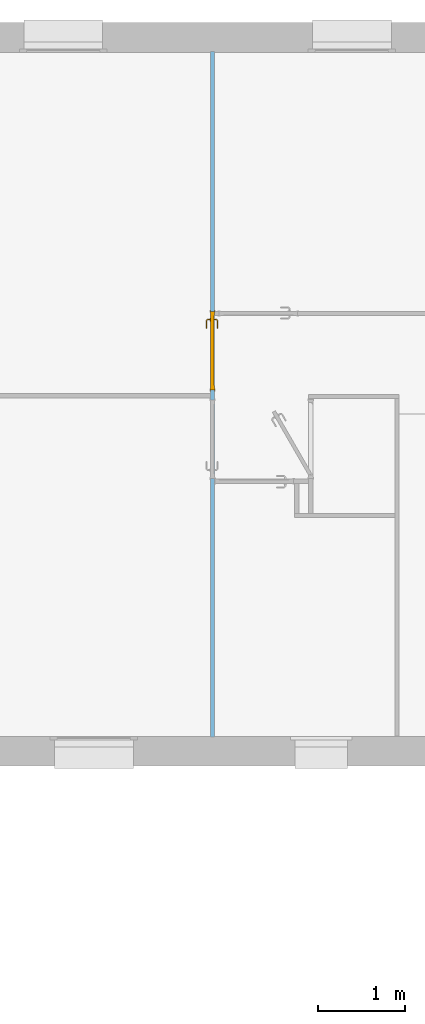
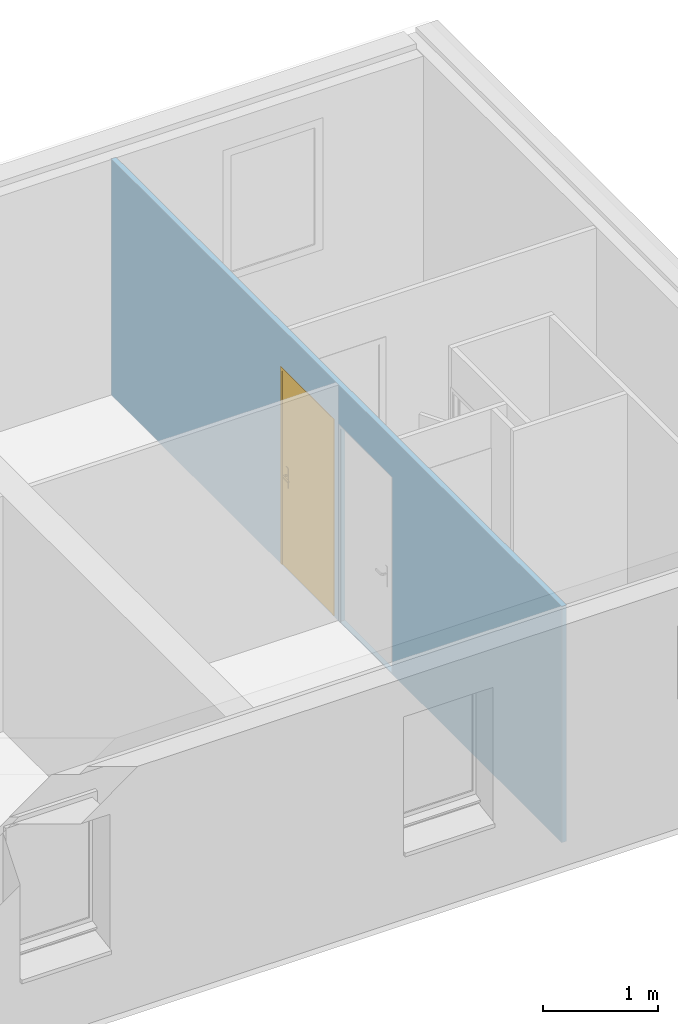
# One storey, part 9 of 13: 1 door, 3 openings, plus 1 element that does not belong to this part.
"""IFC2X3 building model written with IfcOpenShell, lengths in metres."""

from ifc_helpers import new_model, entity, si_unit, converted_unit, derived_unit, direction, frame, frame_2d, origin, place, context, subcontext, project, spatial, rectangle, extrude, faceted_brep, source, transform, mapped, material, material_list, layer, layer_set, layer_usage, type_object, type_shapes, element, fill, save


model = new_model("IFC2X3")

# Units and contexts
model_context = context("Model", 3, precision=1e-05, world=origin(), true_north=direction((6.12303176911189e-17, 1.0)))
context_of_model = context(None, 3, precision=1e-05, world=origin(), true_north=direction((6.12303176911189e-17, 1.0)))
body_context = subcontext(model_context, "Body", "Model", "MODEL_VIEW")
ifc_project = project(units=[si_unit("LENGTHUNIT", "METRE"), si_unit("AREAUNIT", "SQUARE_METRE"), si_unit("VOLUMEUNIT", "CUBIC_METRE"), converted_unit("PLANEANGLEUNIT", "DEGREE", entity("IfcRatioMeasure", 0.0174532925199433), si_unit("PLANEANGLEUNIT", "RADIAN"), dimensions=[0, 0, 0, 0, 0, 0, 0]), si_unit("MASSUNIT", "GRAM", prefix="KILO"), si_unit("TIMEUNIT", "SECOND"), si_unit("FREQUENCYUNIT", "HERTZ"), si_unit("THERMODYNAMICTEMPERATUREUNIT", "DEGREE_CELSIUS"), derived_unit("THERMALTRANSMITTANCEUNIT", [(si_unit("MASSUNIT", "GRAM", prefix="KILO"), 1), (si_unit("THERMODYNAMICTEMPERATUREUNIT", "KELVIN"), -1), (si_unit("TIMEUNIT", "SECOND"), -3)]), derived_unit("VOLUMETRICFLOWRATEUNIT", [(si_unit("LENGTHUNIT", "METRE"), 3), (si_unit("TIMEUNIT", "SECOND"), -1)]), si_unit("ELECTRICCURRENTUNIT", "AMPERE"), si_unit("ELECTRICVOLTAGEUNIT", "VOLT"), si_unit("POWERUNIT", "WATT"), si_unit("FORCEUNIT", "NEWTON", prefix="KILO"), si_unit("ILLUMINANCEUNIT", "LUX"), si_unit("LUMINOUSFLUXUNIT", "LUMEN"), si_unit("LUMINOUSINTENSITYUNIT", "CANDELA"), derived_unit("USERDEFINED", [(si_unit("MASSUNIT", "GRAM", prefix="KILO"), -1), (si_unit("LENGTHUNIT", "METRE"), -2), (si_unit("TIMEUNIT", "SECOND"), 3), (si_unit("LUMINOUSFLUXUNIT", "LUMEN"), 1)]), derived_unit("LINEARVELOCITYUNIT", [(si_unit("LENGTHUNIT", "METRE"), 1), (si_unit("TIMEUNIT", "SECOND"), -1)]), si_unit("PRESSUREUNIT", "PASCAL"), derived_unit("USERDEFINED", [(si_unit("LENGTHUNIT", "METRE"), -2), (si_unit("MASSUNIT", "GRAM", prefix="KILO"), 1), (si_unit("TIMEUNIT", "SECOND"), -2)])], contexts=[model_context, context_of_model])

# Site, building, storey
site_placement = place(None, origin())
site = spatial("IfcSite", under=ifc_project, at=site_placement, Name="Surface", CompositionType="ELEMENT")
building_placement = place(site_placement, origin())
building = spatial("IfcBuilding", under=site, at=building_placement, CompositionType="ELEMENT")
storey_placement = place(building_placement, frame((0.0, 0.0, 2.74)))
storey = spatial("IfcBuildingStorey", under=building, at=storey_placement, Name="Plan étage", CompositionType="ELEMENT", Elevation=2.74)

# Wall, openings, door
ifc_material_1 = material(Name="Maçonnerie - Isolant(1)")
ifc_layer = layer(ifc_material_1, 0.05)
ifc_layer_set = layer_set([ifc_layer], Name="Mur de base:Int. plâtre 50 mm")
ifc_layer_usage = layer_usage(ifc_layer_set, "AXIS2", "NEGATIVE", 0.025)
wall_type = type_object("IfcWallType", Name="Mur de base:Int. plâtre 50 mm", PredefinedType="STANDARD", material=ifc_layer_set)
wall_placement = place(storey_placement, frame((-1.68108881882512, 5.35425578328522, -0.00999999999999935), z_axis=(0.0, 0.0, 1.0), x_axis=(0.0, -1.0, 0.0)))
wall = element("IfcWallStandardCase", 1, at=wall_placement, inside=storey, type_object=wall_type, material=ifc_layer_usage, Name="Mur de base:Int. plâtre 50 mm", ObjectType="Mur de base:Int. plâtre 50 mm", context=body_context, shape_type="SweptSolid", body=[
    extrude(rectangle(XDim=7.84000000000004, YDim=0.05, at=frame_2d((3.92000000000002, 0.0), x_axis=(-1.0, 0.0))), origin(), (0.0, 0.0, 1.0), 2.51),
])
opening_1_placement = place(wall_placement, origin())
element("IfcOpeningElement", 2, at=opening_1_placement, cuts=wall, Name="Mur de base:Int. plâtre 50 mm", ObjectType="Opening", context=body_context, shape_type="SweptSolid", body=[
    extrude(rectangle(XDim=2.075, YDim=0.05, at=frame_2d((0.0, 3.33066907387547e-16), x_axis=(0.0, 1.0))), frame((4.915, 0.0274999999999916, 1.0475), z_axis=(0.0, 1.0, 0.0), x_axis=(1.0, 0.0, 0.0)), (0.0, 0.0, 1.0), 0.9),
])
opening_2_placement = place(wall_placement, frame((4.8825, 0.025, 0.00999999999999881)))
element("IfcOpeningElement", 3, at=opening_2_placement, cuts=wall, Name="Int. Simple:PP (0.83m x 2.04m):1", ObjectType="Opening", context=body_context, shape_type="SweptSolid", body=[
    extrude(rectangle(XDim=2.075, YDim=0.9, at=frame_2d((1.0375, 0.45), x_axis=(1.0, 0.0))), frame((0.0, 0.0, 0.0), z_axis=(0.0, -1.0, 0.0), x_axis=(0.0, 0.0, 1.0)), (0.0, 0.0, 1.0), 0.05),
])
opening_3_placement = place(wall_placement, frame((3.87, 0.025, 0.00999999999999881)))
opening_3 = element("IfcOpeningElement", 4, at=opening_3_placement, cuts=wall, Name="Int. Simple:PP (0.83m x 2.04m):1", ObjectType="Opening", context=body_context, shape_type="SweptSolid", body=[
    extrude(rectangle(XDim=2.075, YDim=0.9, at=frame_2d((1.0375, 0.45), x_axis=(1.0, 0.0))), frame((0.0, 0.0, 0.0), z_axis=(0.0, -1.0, 0.0), x_axis=(0.0, 0.0, 1.0)), (0.0, 0.0, 1.0), 0.05),
])
ifc_material_2 = material(Name="Finition Peinture - Blanc satiné")
ifc_material_3 = material(Name="Bois - Panneau de porte")
ifc_material_4 = material(Name="Bois - Cadre de porte")
ifc_material_list_1 = material_list([ifc_material_2, ifc_material_3, ifc_material_4])
ifc_material_list_2 = material_list([ifc_material_2, ifc_material_3, ifc_material_4])
door_style = type_object("IfcDoorStyle", Name="PP (0.83m x 2.04m)", ConstructionType="NOTDEFINED", OperationType="SINGLE_SWING_LEFT", ParameterTakesPrecedence=False, Sizeable=False, material=ifc_material_list_2)
shared_shape = source(origin(), body_context, "Body", "Brep", [
    faceted_brep([(0.105352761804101, -0.00500000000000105, 0.866003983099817), (0.115, -0.00500000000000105, 0.870000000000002), (0.114999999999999, -0.00500000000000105, 1.08), (0.1053527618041, -0.00500000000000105, 1.08399601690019), (0.0949999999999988, -0.00500000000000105, 1.08535898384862), (0.0846472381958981, -0.00500000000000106, 1.08399601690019), (0.0749999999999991, -0.00500000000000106, 1.08), (0.0750000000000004, -0.00500000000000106, 0.870000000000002), (0.0846472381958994, -0.00500000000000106, 0.866003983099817), (0.0950000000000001, -0.00500000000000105, 0.86464101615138), (0.1053527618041, 0.0, 1.08399601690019), (0.114999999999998, 0.0, 1.08), (0.115, 0.0, 0.870000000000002), (0.105352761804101, 0.0, 0.866003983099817), (0.0950000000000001, 0.0, 0.86464101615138), (0.0846472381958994, 0.0, 0.866003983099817), (0.0749999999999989, 0.0, 0.870000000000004), (0.0749999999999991, 0.0, 1.08), (0.0846472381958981, 0.0, 1.08399601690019), (0.0949999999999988, 0.0, 1.08535898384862)], [[[0, 1, 2, 3, 4, 5, 6, 7, 8, 9]], [[10, 11, 12, 13, 14, 15, 16, 17, 18, 19]], [[16, 15, 8, 7]], [[8, 15, 14, 9]], [[14, 13, 0, 9]], [[13, 12, 1, 0]], [[2, 1, 12, 11]], [[11, 10, 3, 2]], [[3, 10, 19, 4]], [[19, 18, 5, 4]], [[18, 17, 6, 5]], [[7, 6, 17, 16]]]),
    faceted_brep([(0.105352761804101, 0.0399999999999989, 0.866003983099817), (0.115, 0.0399999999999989, 0.870000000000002), (0.114999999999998, 0.0399999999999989, 1.08), (0.105352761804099, 0.0399999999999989, 1.08399601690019), (0.0949999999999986, 0.0399999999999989, 1.08535898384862), (0.084647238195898, 0.0399999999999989, 1.08399601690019), (0.0749999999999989, 0.0399999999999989, 1.08), (0.0750000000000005, 0.0399999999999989, 0.870000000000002), (0.0846472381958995, 0.0399999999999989, 0.866003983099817), (0.0950000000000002, 0.0399999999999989, 0.86464101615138), (0.105352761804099, 0.0449999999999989, 1.08399601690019), (0.114999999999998, 0.0449999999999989, 1.08), (0.115, 0.0449999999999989, 0.870000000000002), (0.105352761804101, 0.0449999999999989, 0.866003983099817), (0.0950000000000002, 0.0449999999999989, 0.86464101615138), (0.0846472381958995, 0.0449999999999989, 0.866003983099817), (0.0749999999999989, 0.0449999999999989, 0.870000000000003), (0.0749999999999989, 0.0449999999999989, 1.08), (0.084647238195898, 0.0449999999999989, 1.08399601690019), (0.0949999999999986, 0.0449999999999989, 1.08535898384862)], [[[0, 1, 2, 3, 4, 5, 6, 7, 8, 9]], [[10, 11, 12, 13, 14, 15, 16, 17, 18, 19]], [[11, 10, 3, 2]], [[3, 10, 19, 4]], [[19, 18, 5, 4]], [[18, 17, 6, 5]], [[7, 6, 17, 16]], [[16, 15, 8, 7]], [[8, 15, 14, 9]], [[14, 13, 0, 9]], [[13, 12, 1, 0]], [[2, 1, 12, 11]]]),
    faceted_brep([(0.0929747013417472, -0.00500000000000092, 1.00778044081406), (0.0970252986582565, -0.0050000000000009, 1.00778044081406), (0.101000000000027, -0.00500000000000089, 1.00699999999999), (0.101000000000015, -0.00500000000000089, 0.993000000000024), (0.0970252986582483, -0.0050000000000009, 0.992219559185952), (0.0929747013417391, -0.00500000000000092, 0.99221955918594), (0.0889999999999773, -0.00500000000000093, 0.992999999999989), (0.0889999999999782, -0.00500000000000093, 1.007), (0.0889999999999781, -0.0326509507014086, 1.007), (0.092974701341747, -0.0310045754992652, 1.00778044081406), (0.10902358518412, -0.0470534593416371, 1.00778044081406), (0.110701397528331, -0.0430028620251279, 1.00778044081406), (0.0970252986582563, -0.0293267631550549, 1.00778044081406), (0.101000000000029, -0.0276803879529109, 1.007), (0.101000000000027, -0.0276803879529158, 0.993000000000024), (0.0970252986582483, -0.0293267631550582, 0.992219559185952), (0.110701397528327, -0.0430028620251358, 0.992219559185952), (0.109023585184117, -0.047053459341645, 0.99221955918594), (0.0929747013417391, -0.0310045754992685, 0.99221955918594), (0.0889999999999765, -0.0326509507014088, 0.992999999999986), (0.107377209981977, -0.0510281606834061, 1.007), (0.112347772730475, -0.0390281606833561, 1.007), (0.112347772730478, -0.0390281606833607, 0.993000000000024), (0.107377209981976, -0.0510281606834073, 0.992999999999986), (0.195018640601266, -0.0510281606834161, 0.992999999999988), (0.195018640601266, -0.0470534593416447, 0.99221955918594), (0.195018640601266, -0.0430028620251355, 0.992219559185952), (0.195018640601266, -0.039028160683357, 0.993000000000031), (0.195018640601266, -0.0390281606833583, 1.007), (0.195018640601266, -0.0430028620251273, 1.00778044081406), (0.195018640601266, -0.0470534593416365, 1.00778044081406), (0.195018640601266, -0.0510281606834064, 1.00699999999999), (0.147307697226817, -0.0510281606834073, 1.007), (0.152860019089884, -0.045028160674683, 1.0078786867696), (0.15368320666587, -0.039028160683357, 1.007), (0.153683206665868, -0.0390281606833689, 0.993000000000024), (0.152860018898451, -0.0450281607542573, 0.992121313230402), (0.147307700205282, -0.0510281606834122, 0.992999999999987)], [[[0, 1, 2, 3, 4, 5, 6, 7]], [[8, 9, 0, 7]], [[9, 10, 11, 12, 1, 0]], [[12, 13, 2, 1]], [[3, 2, 13, 14]], [[14, 15, 4, 3]], [[15, 16, 17, 18, 5, 4]], [[18, 19, 6, 5]], [[7, 6, 19, 8]], [[20, 10, 9, 8]], [[11, 21, 13, 12]], [[14, 13, 21, 22]], [[22, 16, 15, 14]], [[17, 23, 19, 18]], [[8, 19, 23, 20]], [[24, 25, 26, 27, 28, 29, 30, 31]], [[32, 30, 33]], [[31, 30, 32]], [[10, 20, 32]], [[33, 34, 11]], [[21, 11, 34]], [[34, 29, 28]], [[30, 29, 33]], [[29, 34, 33]], [[10, 32, 33]], [[10, 33, 11]], [[22, 21, 34, 28, 27, 35]], [[35, 26, 36]], [[37, 36, 25]], [[22, 35, 16]], [[35, 27, 26]], [[24, 37, 25]], [[23, 17, 37]], [[37, 17, 36]], [[17, 16, 36]], [[16, 35, 36]], [[25, 36, 26]], [[20, 23, 37, 24, 31, 32]]]),
    faceted_brep([(0.0929747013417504, 0.0449999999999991, 1.00778044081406), (0.0889999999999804, 0.044999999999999, 1.007), (0.0889999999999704, 0.044999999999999, 0.992999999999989), (0.0929747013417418, 0.0449999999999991, 0.99221955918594), (0.0970252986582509, 0.0449999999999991, 0.992219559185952), (0.10100000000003, 0.0449999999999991, 0.993000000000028), (0.101000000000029, 0.0449999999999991, 1.007), (0.0970252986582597, 0.0449999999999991, 1.00778044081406), (0.10100000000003, 0.067485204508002, 0.993000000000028), (0.10100000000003, 0.0674852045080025, 1.007), (0.0970252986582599, 0.0691315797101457, 1.00778044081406), (0.110838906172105, 0.0829451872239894, 1.00778044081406), (0.109161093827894, 0.0869957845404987, 1.00778044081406), (0.0929747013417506, 0.070809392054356, 1.00778044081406), (0.0889999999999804, 0.0724557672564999, 1.007), (0.0889999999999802, 0.072455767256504, 0.992999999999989), (0.0929747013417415, 0.0708093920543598, 0.99221955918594), (0.109161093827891, 0.0869957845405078, 0.99221955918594), (0.110838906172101, 0.0829451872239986, 0.992219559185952), (0.0970252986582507, 0.0691315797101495, 0.992219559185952), (0.112485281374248, 0.0789704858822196, 0.993000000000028), (0.112485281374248, 0.0789704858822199, 1.007), (0.107514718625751, 0.0909704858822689, 1.007), (0.107514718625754, 0.090970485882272, 0.992999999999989), (0.195045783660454, 0.0789704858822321, 0.993000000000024), (0.195045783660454, 0.0829451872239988, 0.992219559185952), (0.195045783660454, 0.086995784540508, 0.99221955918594), (0.195045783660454, 0.0909704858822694, 0.992999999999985), (0.195045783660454, 0.0909704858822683, 1.007), (0.195045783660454, 0.0869957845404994, 1.00778044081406), (0.195045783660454, 0.0829451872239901, 1.00778044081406), (0.195045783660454, 0.0789704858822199, 1.007), (0.153765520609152, 0.0789704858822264, 0.993000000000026), (0.153765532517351, 0.0789704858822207, 1.007), (0.152942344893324, 0.0849704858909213, 1.0078786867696), (0.147445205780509, 0.0909704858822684, 1.007), (0.147445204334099, 0.0909704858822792, 0.992999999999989), (0.152942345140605, 0.0849704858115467, 0.992121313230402)], [[[0, 1, 2, 3, 4, 5, 6, 7]], [[6, 5, 8, 9]], [[9, 10, 7, 6]], [[10, 11, 12, 13, 0, 7]], [[13, 14, 1, 0]], [[2, 1, 14, 15]], [[15, 16, 3, 2]], [[16, 17, 18, 19, 4, 3]], [[19, 8, 5, 4]], [[9, 8, 20, 21]], [[21, 11, 10, 9]], [[12, 22, 14, 13]], [[15, 14, 22, 23]], [[23, 17, 16, 15]], [[18, 20, 8, 19]], [[24, 25, 26, 27, 28, 29, 30, 31]], [[21, 20, 32, 24, 31, 33]], [[33, 30, 34]], [[35, 34, 29]], [[21, 33, 11]], [[33, 31, 30]], [[28, 35, 29]], [[22, 12, 35]], [[35, 12, 34]], [[12, 11, 34]], [[11, 33, 34]], [[29, 34, 30]], [[22, 35, 28, 27, 36, 23]], [[36, 26, 37]], [[27, 26, 36]], [[17, 23, 36]], [[37, 32, 18]], [[20, 18, 32]], [[32, 25, 24]], [[26, 25, 37]], [[25, 32, 37]], [[17, 36, 37]], [[17, 37, 18]]]),
    faceted_brep([(0.034999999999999, 0.04, 2.04), (0.865, 0.04, 2.04), (0.864999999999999, 0.04, 0.0), (0.034999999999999, 0.04, 0.0), (0.034999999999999, 0.0, 2.04), (0.034999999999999, 0.0, 0.0), (0.864999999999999, 0.0, 0.0), (0.865, 0.0, 2.04)], [[[0, 1, 2, 3]], [[4, 5, 6, 7]], [[1, 0, 4, 7]], [[2, 1, 7, 6]], [[3, 2, 6, 5]], [[0, 3, 5, 4]]]),
    faceted_brep([(0.0, 0.0, 0.0), (0.0, 0.050000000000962, 0.0), (0.0499999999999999, 0.050000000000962, 0.0), (0.0499999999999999, 0.040000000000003, 0.0), (0.0349999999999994, 0.040000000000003, 0.0), (0.0349999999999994, 0.0, 0.0), (0.0, 0.0, 2.07500000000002), (0.0, 0.050000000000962, 2.07500000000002), (0.900000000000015, 0.050000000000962, 2.07500000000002), (0.900000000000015, 0.050000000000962, 0.0), (0.85, 0.050000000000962, 0.0), (0.85, 0.050000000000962, 2.025), (0.0500000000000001, 0.050000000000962, 2.025), (0.05, 0.040000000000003, 2.025), (0.85, 0.040000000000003, 2.025), (0.85, 0.040000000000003, 0.0), (0.865, 0.040000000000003, 0.0), (0.865, 0.040000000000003, 2.04), (0.0349999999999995, 0.040000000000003, 2.04), (0.0349999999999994, 0.0, 2.04), (0.865, 0.0, 2.04), (0.865, 0.0, 0.0), (0.900000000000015, 0.0, 0.0), (0.900000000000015, 0.0, 2.07500000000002)], [[[0, 1, 2, 3, 4, 5]], [[1, 0, 6, 7]], [[2, 1, 7, 8, 9, 10, 11, 12]], [[3, 2, 12, 13]], [[4, 3, 13, 14, 15, 16, 17, 18]], [[5, 4, 18, 19]], [[0, 5, 19, 20, 21, 22, 23, 6]], [[8, 23, 22, 9]], [[22, 21, 16, 15, 10, 9]], [[14, 11, 10, 15]], [[20, 17, 16, 21]], [[7, 6, 23, 8]], [[13, 12, 11, 14]], [[19, 18, 17, 20]]]),
    faceted_brep([(0.0149999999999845, 0.050000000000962, 0.0), (-0.0150000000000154, 0.050000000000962, 0.0), (-0.0150000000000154, 0.055000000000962, 0.0), (0.0149999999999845, 0.055000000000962, 0.0), (0.0149999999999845, 0.050000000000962, 2.06000000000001), (0.884999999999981, 0.050000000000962, 2.06000000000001), (0.88499999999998, 0.050000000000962, 0.0), (0.91499999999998, 0.050000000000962, 0.0), (0.91499999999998, 0.050000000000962, 2.09000000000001), (-0.0150000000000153, 0.050000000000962, 2.09000000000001), (-0.0150000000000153, 0.055000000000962, 2.09000000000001), (0.91499999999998, 0.055000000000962, 2.09000000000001), (0.91499999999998, 0.055000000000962, 0.0), (0.88499999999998, 0.055000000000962, 0.0), (0.88499999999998, 0.055000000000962, 2.06000000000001), (0.0149999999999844, 0.055000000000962, 2.06000000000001)], [[[0, 1, 2, 3]], [[1, 0, 4, 5, 6, 7, 8, 9]], [[2, 1, 9, 10]], [[3, 2, 10, 11, 12, 13, 14, 15]], [[0, 3, 15, 4]], [[6, 13, 12, 7]], [[5, 14, 13, 6]], [[11, 8, 7, 12]], [[10, 9, 8, 11]], [[4, 15, 14, 5]]]),
    faceted_brep([(-0.0150000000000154, -0.005, 0.0), (0.0149999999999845, -0.005, 0.0), (0.0149999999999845, -0.005, 2.06000000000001), (0.884999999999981, -0.005, 2.06000000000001), (0.88499999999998, -0.005, 0.0), (0.91499999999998, -0.005, 0.0), (0.91499999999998, -0.005, 2.09000000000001), (-0.0150000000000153, -0.005, 2.09000000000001), (-0.0150000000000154, 0.0, 0.0), (-0.0150000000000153, 0.0, 2.09000000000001), (0.0149999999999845, 0.0, 0.0), (0.91499999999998, 0.0, 2.09000000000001), (0.91499999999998, 0.0, 0.0), (0.88499999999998, 0.0, 0.0), (0.88499999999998, 0.0, 2.06000000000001), (0.0149999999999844, 0.0, 2.06000000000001)], [[[0, 1, 2, 3, 4, 5, 6, 7]], [[8, 0, 7, 9]], [[10, 8, 9, 11, 12, 13, 14, 15]], [[1, 10, 15, 2]], [[3, 14, 13, 4]], [[11, 6, 5, 12]], [[9, 7, 6, 11]], [[2, 15, 14, 3]], [[4, 13, 12, 5]], [[1, 0, 8, 10]]]),
])
type_shapes(door_style, [shared_shape])
door_placement = place(opening_3_placement, frame((-0.9, -0.0499999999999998, 0.0)))
door = element("IfcDoor", 5, at=door_placement, inside=storey, type_object=door_style, material=ifc_material_list_1, Name="Int. Simple:PP (0.83m x 2.04m)", ObjectType="PP (0.83m x 2.04m)", OverallHeight=2.075, OverallWidth=0.9, context=body_context, shape_type="MappedRepresentation", body=[
    mapped(shared_shape, transform((0.0, 0.0, 0.0), scale=1.0)),
])
fill(opening_3, door)

save(model, "model.ifc")
